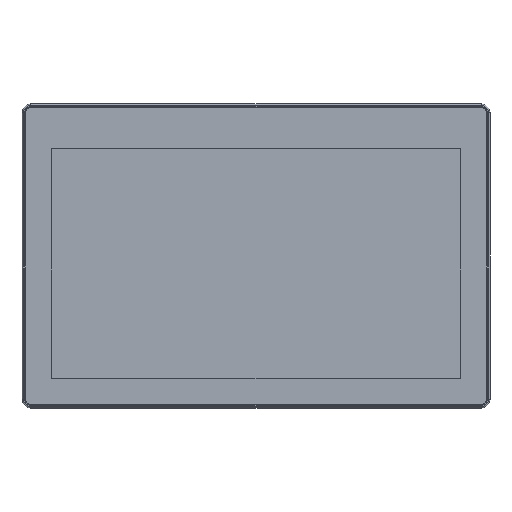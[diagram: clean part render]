
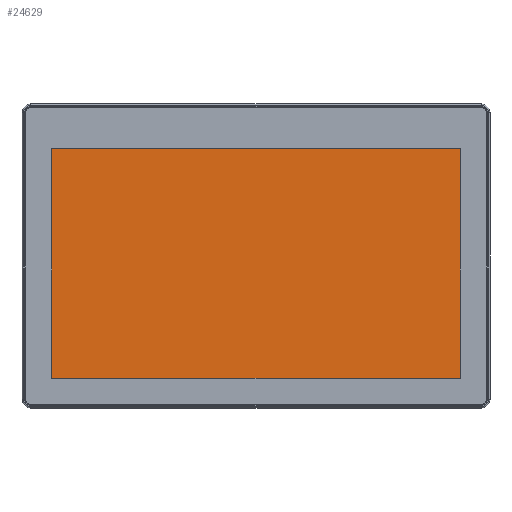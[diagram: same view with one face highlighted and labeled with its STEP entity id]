
A CAD part, top view. The second image highlights one B-rep face of the part: STEP entity #24629.
In plain terms, the highlighted planar face has unit normal (0, 0, 1).
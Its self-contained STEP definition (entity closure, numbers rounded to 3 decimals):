
#3234=DIRECTION('',(0.,-1.,0.));
#3235=VECTOR('',#3234,193.59);
#3236=CARTESIAN_POINT('',(-172.08,90.495,4.9));
#3237=LINE('',#3236,#3235);
#3250=DIRECTION('',(-1.,0.,0.));
#3251=VECTOR('',#3250,344.16);
#3252=CARTESIAN_POINT('',(172.08,90.495,4.9));
#3253=LINE('',#3252,#3251);
#3258=DIRECTION('',(0.,1.,0.));
#3259=VECTOR('',#3258,193.59);
#3260=CARTESIAN_POINT('',(172.08,-103.095,4.9));
#3261=LINE('',#3260,#3259);
#3270=DIRECTION('',(1.,0.,0.));
#3271=VECTOR('',#3270,344.16);
#3272=CARTESIAN_POINT('',(-172.08,-103.095,4.9));
#3273=LINE('',#3272,#3271);
#18580=CARTESIAN_POINT('',(-172.08,90.495,4.9));
#18581=CARTESIAN_POINT('',(-172.08,-103.095,4.9));
#18582=VERTEX_POINT('',#18580);
#18583=VERTEX_POINT('',#18581);
#18584=CARTESIAN_POINT('',(172.08,90.495,4.9));
#18585=VERTEX_POINT('',#18584);
#18586=CARTESIAN_POINT('',(172.08,-103.095,4.9));
#18587=VERTEX_POINT('',#18586);
#24615=CARTESIAN_POINT('',(0.,0.,4.9));
#24616=DIRECTION('',(0.,0.,1.));
#24617=DIRECTION('',(-1.,0.,0.));
#24618=AXIS2_PLACEMENT_3D('',#24615,#24616,#24617);
#24619=PLANE('',#24618);
#24620=ORIENTED_EDGE('',*,*,#24605,.F.);
#24622=ORIENTED_EDGE('',*,*,#24621,.F.);
#24624=ORIENTED_EDGE('',*,*,#24623,.F.);
#24626=ORIENTED_EDGE('',*,*,#24625,.F.);
#24627=EDGE_LOOP('',(#24620,#24622,#24624,#24626));
#24628=FACE_OUTER_BOUND('',#24627,.F.);
#24629=ADVANCED_FACE('',(#24628),#24619,.T.);
#24605=EDGE_CURVE('',#18582,#18583,#3237,.T.);
#24621=EDGE_CURVE('',#18585,#18582,#3253,.T.);
#24623=EDGE_CURVE('',#18587,#18585,#3261,.T.);
#24625=EDGE_CURVE('',#18583,#18587,#3273,.T.);
